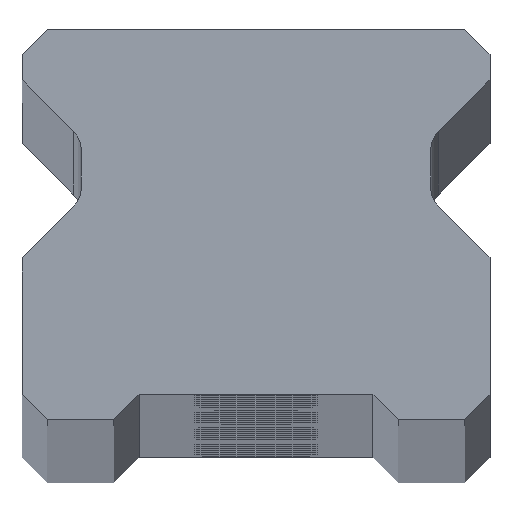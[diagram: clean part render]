
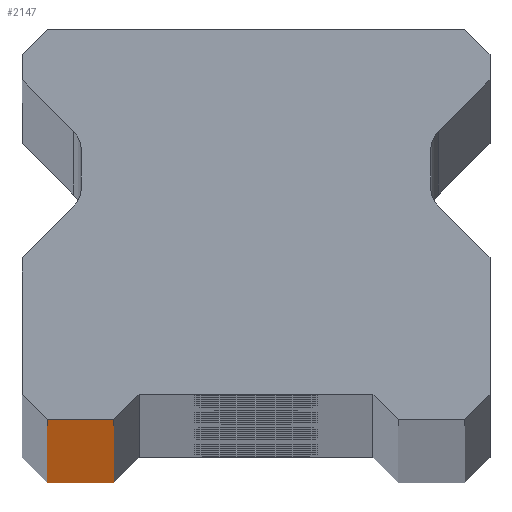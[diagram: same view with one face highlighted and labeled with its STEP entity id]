
A CAD part, top view. The second image highlights one B-rep face of the part: STEP entity #2147.
In plain terms, the highlighted planar face has unit normal (0, -1, 0).
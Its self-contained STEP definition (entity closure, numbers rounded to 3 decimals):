
#46 = CARTESIAN_POINT ( 'NONE',  ( -10.25, 0., -890. ) ) ;
#55 = CARTESIAN_POINT ( 'NONE',  ( 11.5, 0., 890. ) ) ;
#58 = ORIENTED_EDGE ( 'NONE', *, *, #2907, .T. ) ;
#72 = EDGE_LOOP ( 'NONE', ( #629, #357, #1695, #58 ) ) ;
#77 = DIRECTION ( 'NONE',  ( 0., 1., 0. ) ) ;
#357 = ORIENTED_EDGE ( 'NONE', *, *, #1218, .T. ) ;
#409 = CARTESIAN_POINT ( 'NONE',  ( -10.25, 0., 890. ) ) ;
#472 = VECTOR ( 'NONE', #3056, 1000. ) ;
#627 = DIRECTION ( 'NONE',  ( -1., 0., 0. ) ) ;
#629 = ORIENTED_EDGE ( 'NONE', *, *, #2092, .T. ) ;
#1218 = EDGE_CURVE ( 'NONE', #2657, #1375, #2032, .T. ) ;
#1375 = VERTEX_POINT ( 'NONE', #5213 ) ;
#1482 = VECTOR ( 'NONE', #3327, 1000. ) ;
#1587 = CARTESIAN_POINT ( 'NONE',  ( 11.5, 0., -890. ) ) ;
#1695 = ORIENTED_EDGE ( 'NONE', *, *, #3880, .F. ) ;
#2032 = LINE ( 'NONE', #4099, #3428 ) ;
#2084 = VECTOR ( 'NONE', #5299, 1000. ) ;
#2092 = EDGE_CURVE ( 'NONE', #3561, #2657, #2790, .T. ) ;
#2147 = ADVANCED_FACE ( 'NONE', ( #5511 ), #3030, .F. ) ;
#2657 = VERTEX_POINT ( 'NONE', #4171 ) ;
#2790 = LINE ( 'NONE', #1587, #472 ) ;
#2907 = EDGE_CURVE ( 'NONE', #3963, #3561, #3105, .T. ) ;
#3030 = PLANE ( 'NONE',  #5778 ) ;
#3056 = DIRECTION ( 'NONE',  ( 1., 0., 0. ) ) ;
#3105 = LINE ( 'NONE', #409, #1482 ) ;
#3327 = DIRECTION ( 'NONE',  ( 0., 0., -1. ) ) ;
#3428 = VECTOR ( 'NONE', #3605, 1000. ) ;
#3561 = VERTEX_POINT ( 'NONE', #46 ) ;
#3605 = DIRECTION ( 'NONE',  ( 0., 0., 1. ) ) ;
#3880 = EDGE_CURVE ( 'NONE', #3963, #1375, #5335, .T. ) ;
#3963 = VERTEX_POINT ( 'NONE', #6365 ) ;
#4099 = CARTESIAN_POINT ( 'NONE',  ( -7., 0., -890. ) ) ;
#4171 = CARTESIAN_POINT ( 'NONE',  ( -7., 0., -890. ) ) ;
#5213 = CARTESIAN_POINT ( 'NONE',  ( -7., 0., 890. ) ) ;
#5299 = DIRECTION ( 'NONE',  ( 1., 0., 0. ) ) ;
#5335 = LINE ( 'NONE', #6297, #2084 ) ;
#5511 = FACE_OUTER_BOUND ( 'NONE', #72, .T. ) ;
#5778 = AXIS2_PLACEMENT_3D ( 'NONE', #55, #77, #627 ) ;
#6297 = CARTESIAN_POINT ( 'NONE',  ( 11.5, 0., 890. ) ) ;
#6365 = CARTESIAN_POINT ( 'NONE',  ( -10.25, 0., 890. ) ) ;
